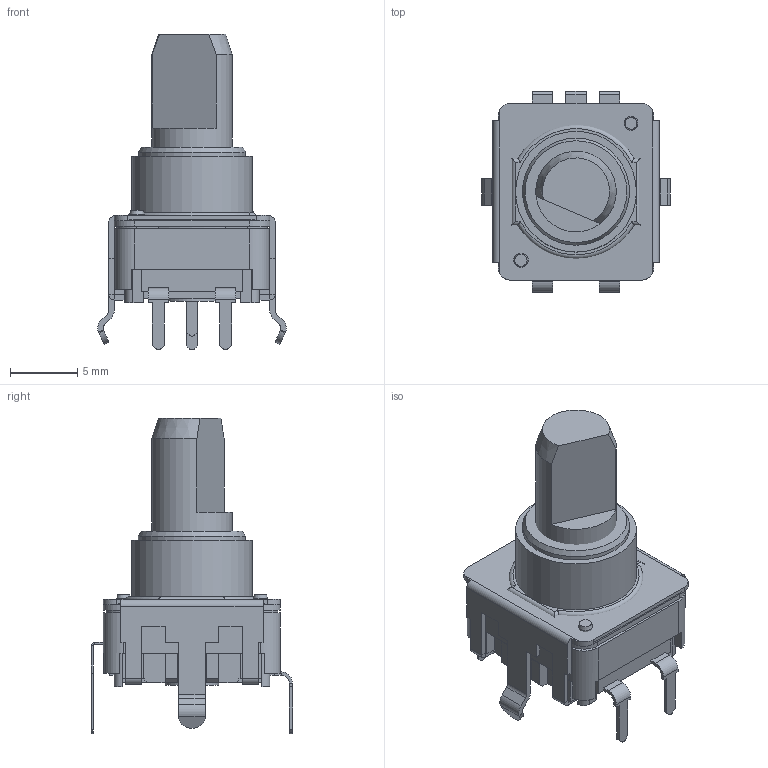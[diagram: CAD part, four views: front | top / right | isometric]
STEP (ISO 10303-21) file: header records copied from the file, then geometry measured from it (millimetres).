
FILE_DESCRIPTION(/* description */ (''),/* implementation_level */ '2;1');
FILE_NAME(/* name */ '\\Forward-ks-ad\開發專區\\X2\9AD896C45EE08A2D8A088AB2\X0\\設計機種開發作業\\X2\91CF75226A5F7A2E5C086848\X0\\ENCODER\機種開發\Encoder\DC12K\3D\CTS\DC12G1221410.stp',/* time_stamp */ '2020-06-15T17:35:19+08:00',/* author */ ('jia'),/* organization */ (''),/* preprocessor_version */ 'ST-DEVELOPER v15.2',/* originating_system */ 'Autodesk Inventor 2014',/* authorisation */ '');
FILE_SCHEMA (('AUTOMOTIVE_DESIGN { 1 0 10303 214 3 1 1 }'));
Length unit declared in the file: millimetre
Products named in the file (1): DC12G2411407_Shrinkwrap_1
Bounding box: 14.05 x 14.99 x 23.5 mm (x, y, z)
Surface area: 2126.1 mm2 (no closed solid volume)
Topology: 0 solids, 21 shells, 338 faces, 994 edges, 662 vertices
Faces by surface type: plane 266, cylinder 66, cone 4, torus 2
Full cylindrical faces by diameter (mm): 1.031 x1, 1.067 x1, 4 x1, 6 x1, 7.98 x1, 9 x1
Entity records: 11019 total; most frequent: CARTESIAN_POINT 2060, DIRECTION 1850, ORIENTED_EDGE 1711, EDGE_CURVE 980, LINE 776, VECTOR 776, VERTEX_POINT 653, AXIS2_PLACEMENT_3D 537
